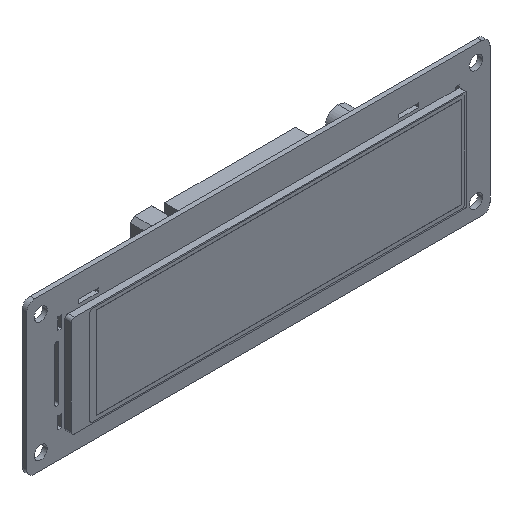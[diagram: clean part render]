
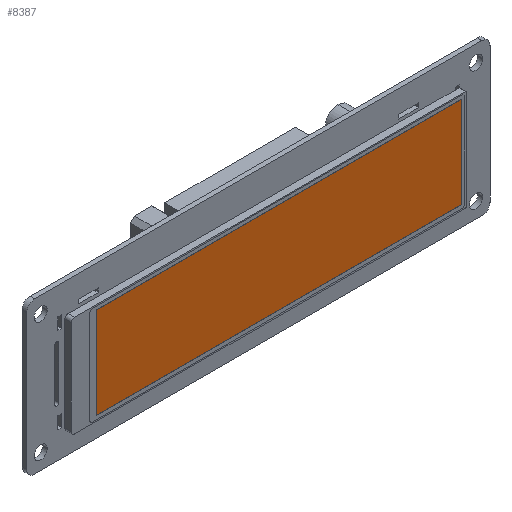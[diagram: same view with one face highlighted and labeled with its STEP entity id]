
A CAD part, isometric view. The second image highlights one B-rep face of the part: STEP entity #8387.
In plain terms, the highlighted planar face has unit normal (0, -1, 0) as drawn and (0, 1, 0) by its records, which use the part's own axes.
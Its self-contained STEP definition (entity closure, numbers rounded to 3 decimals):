
#1720 = VERTEX_POINT ( 'NONE', #7515 ) ;
#2711 = EDGE_CURVE ( 'NONE', #9721, #1720, #3098, .T. ) ;
#2762 = DIRECTION ( 'NONE',  ( -1., 0., 0. ) ) ;
#2815 = VERTEX_POINT ( 'NONE', #8771 ) ;
#2872 = LINE ( 'NONE', #7838, #9336 ) ;
#2911 = ORIENTED_EDGE ( 'NONE', *, *, #8305, .T. ) ;
#3089 = VECTOR ( 'NONE', #7101, 1000. ) ;
#3098 = LINE ( 'NONE', #9033, #7328 ) ;
#3787 = DIRECTION ( 'NONE',  ( 0., 1., 0. ) ) ;
#4200 = EDGE_LOOP ( 'NONE', ( #9269, #4924, #4555, #2911 ) ) ;
#4555 = ORIENTED_EDGE ( 'NONE', *, *, #10912, .T. ) ;
#4607 = LINE ( 'NONE', #6025, #6568 ) ;
#4611 = PLANE ( 'NONE',  #8367 ) ;
#4924 = ORIENTED_EDGE ( 'NONE', *, *, #5022, .T. ) ;
#5022 = EDGE_CURVE ( 'NONE', #1720, #2815, #9560, .T. ) ;
#5959 = CARTESIAN_POINT ( 'NONE',  ( 0.42, -0.1, -96.99 ) ) ;
#6025 = CARTESIAN_POINT ( 'NONE',  ( 23.28, -0.1, -5.55 ) ) ;
#6568 = VECTOR ( 'NONE', #6864, 1000. ) ;
#6734 = CARTESIAN_POINT ( 'NONE',  ( 0.42, -0.1, -5.55 ) ) ;
#6864 = DIRECTION ( 'NONE',  ( 0., 0., -1. ) ) ;
#7101 = DIRECTION ( 'NONE',  ( 1., 0., 0. ) ) ;
#7233 = FACE_OUTER_BOUND ( 'NONE', #4200, .T. ) ;
#7328 = VECTOR ( 'NONE', #8227, 1000. ) ;
#7515 = CARTESIAN_POINT ( 'NONE',  ( 0.42, -0.1, -5.55 ) ) ;
#7838 = CARTESIAN_POINT ( 'NONE',  ( 23.28, -0.1, -96.99 ) ) ;
#8227 = DIRECTION ( 'NONE',  ( 0., 0., 1. ) ) ;
#8305 = EDGE_CURVE ( 'NONE', #9565, #9721, #2872, .T. ) ;
#8367 = AXIS2_PLACEMENT_3D ( 'NONE', #8826, #3787, #9687 ) ;
#8387 = ADVANCED_FACE ( 'NONE', ( #7233 ), #4611, .T. ) ;
#8771 = CARTESIAN_POINT ( 'NONE',  ( 23.28, -0.1, -5.55 ) ) ;
#8826 = CARTESIAN_POINT ( 'NONE',  ( 0., -0.1, 0. ) ) ;
#9033 = CARTESIAN_POINT ( 'NONE',  ( 0.42, -0.1, -96.99 ) ) ;
#9116 = CARTESIAN_POINT ( 'NONE',  ( 23.28, -0.1, -96.99 ) ) ;
#9269 = ORIENTED_EDGE ( 'NONE', *, *, #2711, .T. ) ;
#9336 = VECTOR ( 'NONE', #2762, 1000. ) ;
#9560 = LINE ( 'NONE', #6734, #3089 ) ;
#9565 = VERTEX_POINT ( 'NONE', #9116 ) ;
#9687 = DIRECTION ( 'NONE',  ( 0., 0., 1. ) ) ;
#9721 = VERTEX_POINT ( 'NONE', #5959 ) ;
#10912 = EDGE_CURVE ( 'NONE', #2815, #9565, #4607, .T. ) ;
